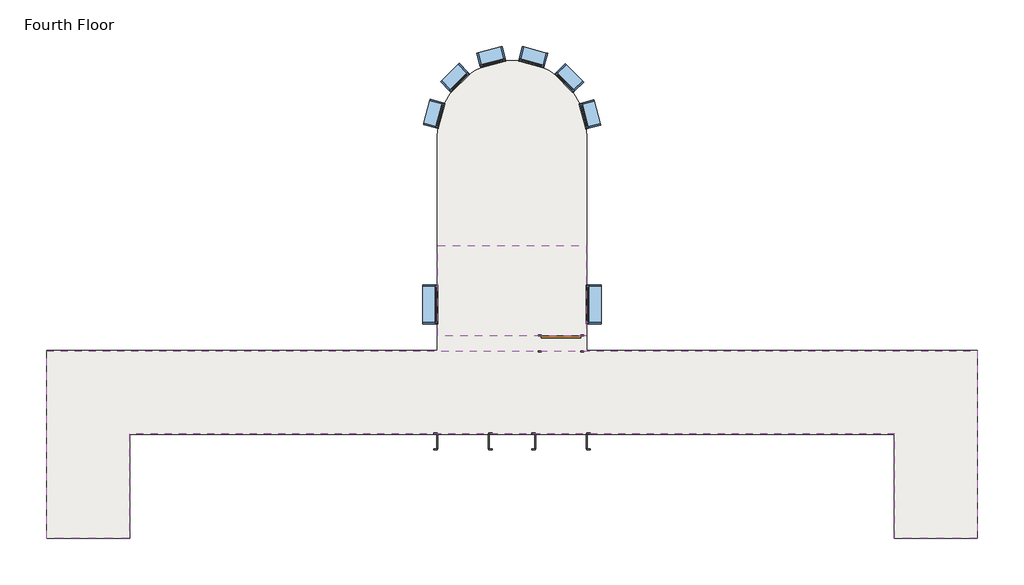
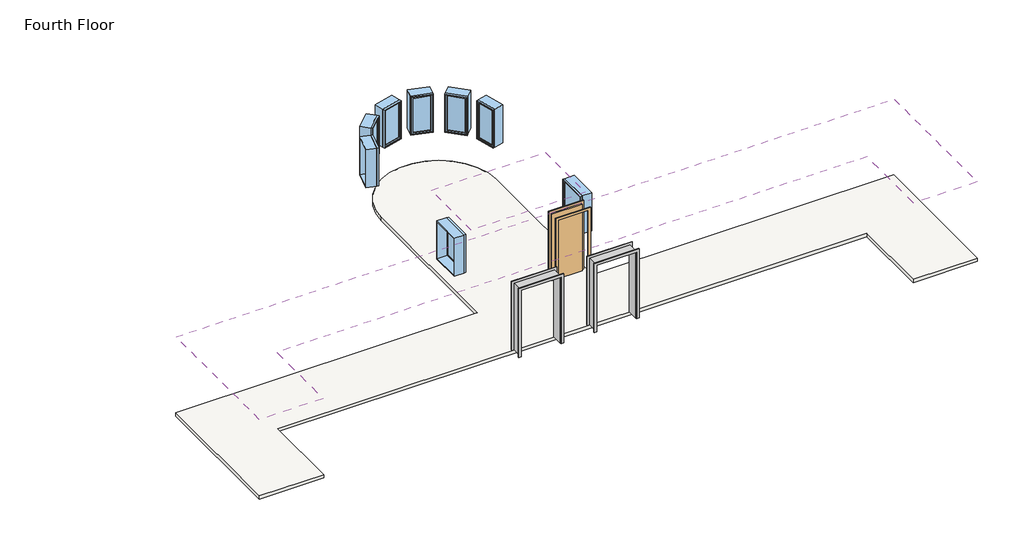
# One storey: 8 windows, 2 coverings, 2 proxies, 2 slabs, 1 door.
"""IFC4 building model written with IfcOpenShell, lengths in millimetres."""

import ifcopenshell
import ifcopenshell.guid

model = None  # the IFC model being written
_history = None  # IfcOwnerHistory: only IFC2X3 demands one
_inside = {}  # id of a spatial element -> (the spatial element, [elements in it])
_under = {}  # id of a project, library or spatial element -> (it, [spatial elements below it])
_declared = {}  # id of a project -> (the project, [libraries it declares])
_typed = {}  # id of a type object -> (the type object, [elements of that type])
_made_of = {}  # id of a material, layer set ... -> (it, [elements and type objects made of it])


def new_model(schema):
    """Start an empty IFC model of exactly this schema.

    Asked for "IFC4X3", IfcOpenShell would pick the latest addendum, in which some entities
    have other attributes; the version numbers below select the first issue.
    IFC2X3 requires an IfcOwnerHistory on every rooted entity: one is made here for all.
    """
    global model, _history
    if schema == "IFC4X3":
        model = ifcopenshell.file(schema_version=(4, 3, 0, 0))
    else:
        model = ifcopenshell.file(schema=schema)
    _inside.clear()
    _under.clear()
    _declared.clear()
    _typed.clear()
    _made_of.clear()
    _history = None
    if model.schema == "IFC2X3":
        org = make("IfcOrganization", Name="unknown")
        user = make(
            "IfcPersonAndOrganization",
            ThePerson=make("IfcPerson", FamilyName="unknown"),
            TheOrganization=org,
        )
        app = make(
            "IfcApplication",
            ApplicationDeveloper=org,
            Version="unknown",
            ApplicationFullName="unknown",
            ApplicationIdentifier="unknown",
        )
        _history = make(
            "IfcOwnerHistory",
            OwningUser=user,
            OwningApplication=app,
            ChangeAction="ADDED",
            CreationDate=0,
        )
    return model


def make(cls, **values):
    """One entity of the class cls with the attributes given. An attribute that is None is left unset."""
    return model.create_entity(
        cls, **{name: value for name, value in values.items() if value is not None}
    )


def rooted(cls, **values):
    """An entity with a GlobalId (a new one), such as an element, a storey or a relation."""
    return make(cls, GlobalId=ifcopenshell.guid.new(), OwnerHistory=_history, **values)


def si_unit(unit_type, name, prefix=None):
    """IfcSIUnit, for example si_unit("LENGTHUNIT", "METRE", prefix="MILLI")."""
    return make("IfcSIUnit", UnitType=unit_type, Prefix=prefix, Name=name)


def assignment(units):
    """IfcUnitAssignment: the units of a project."""
    return None if units is None else make("IfcUnitAssignment", Units=units)


def point(xyz):
    """IfcCartesianPoint."""
    return None if xyz is None else make("IfcCartesianPoint", Coordinates=xyz)


def direction(xyz):
    """IfcDirection."""
    return None if xyz is None else make("IfcDirection", DirectionRatios=xyz)


def frame(location, z_axis=None, x_axis=None):
    """IfcAxis2Placement3D, a coordinate frame: its origin and axes. An axis left out is left unset."""
    return make(
        "IfcAxis2Placement3D",
        Location=point(location),
        Axis=direction(z_axis),
        RefDirection=direction(x_axis),
    )


def frame_2d(location, x_axis=None):
    """IfcAxis2Placement2D, a coordinate frame in the plane: its origin and x axis."""
    return make(
        "IfcAxis2Placement2D", Location=point(location), RefDirection=direction(x_axis)
    )


def origin():
    """The frame at (0, 0, 0) with its axes left unset."""
    return frame((0.0, 0.0, 0.0))


def origin_with_axes():
    """The frame at (0, 0, 0) with the z axis (0, 0, 1) and the x axis (1, 0, 0) written out."""
    return frame((0.0, 0.0, 0.0), z_axis=(0.0, 0.0, 1.0), x_axis=(1.0, 0.0, 0.0))


def place(relative_to, where):
    """IfcLocalPlacement: puts the frame where relative to a parent placement (None: the world)."""
    return make(
        "IfcLocalPlacement", PlacementRelTo=relative_to, RelativePlacement=where
    )


def context(
    kind, dimensions, precision=None, world=None, true_north=None, identifier=None
):
    """IfcGeometricRepresentationContext, for example the 3D "Model" context."""
    return make(
        "IfcGeometricRepresentationContext",
        ContextIdentifier=identifier,
        ContextType=kind,
        CoordinateSpaceDimension=dimensions,
        Precision=precision,
        WorldCoordinateSystem=world,
        TrueNorth=true_north,
    )


def project(units=None, contexts=None):
    """IfcProject with its units and contexts."""
    return rooted(
        "IfcProject",
        Name="project",
        RepresentationContexts=contexts,
        UnitsInContext=assignment(units),
    )


def spatial(cls, under=None, at=None, **own):
    """A site, building, storey or space (cls), placed at a placement, below another one or the project."""
    s = rooted(cls, ObjectPlacement=at, **own)
    if under is not None:
        _under.setdefault(under.id(), (under, []))[1].append(s)
    return s


def polyline(points):
    """IfcPolyline through the points."""
    return make("IfcPolyline", Points=[point(p) for p in points])


def circle_curve(where, radius):
    """IfcCircle in the frame where."""
    return make("IfcCircle", Position=where, Radius=radius)


def trimmed(basis, trim1, trim2, sense, master):
    """IfcTrimmedCurve: the piece of a basis curve between two trims."""
    return make(
        "IfcTrimmedCurve",
        BasisCurve=basis,
        Trim1=trim1,
        Trim2=trim2,
        SenseAgreement=sense,
        MasterRepresentation=master,
    )


def segment(curve, same_sense, transition):
    """IfcCompositeCurveSegment."""
    return make(
        "IfcCompositeCurveSegment",
        Transition=transition,
        SameSense=same_sense,
        ParentCurve=curve,
    )


def composite_curve(segments, self_intersect=None):
    """IfcCompositeCurve: segments joined end to end."""
    return make("IfcCompositeCurve", Segments=segments, SelfIntersect=self_intersect)


def outline(outer, holes=None, kind="AREA"):
    """IfcArbitraryClosedProfileDef: a profile drawn as a closed curve; with holes, ...WithVoids."""
    if holes is None:
        return make("IfcArbitraryClosedProfileDef", ProfileType=kind, OuterCurve=outer)
    return make(
        "IfcArbitraryProfileDefWithVoids",
        ProfileType=kind,
        OuterCurve=outer,
        InnerCurves=holes,
    )


def extrude(swept, where, along, depth):
    """IfcExtrudedAreaSolid: the profile swept, set in the frame where, extruded along a direction by depth."""
    return make(
        "IfcExtrudedAreaSolid",
        SweptArea=swept,
        Position=where,
        ExtrudedDirection=direction(along),
        Depth=depth,
    )


def faces_of(points, faces, orient=None, outer=None):
    """IfcFace entities. A face is a list of loops; a loop is a list of indices into points, from 0.

    orient and outer hold one flag for each loop. By default every Orientation is true, the
    first loop of a face is its IfcFaceOuterBound and the others are IfcFaceBound.
    """
    made = []
    for i, loops in enumerate(faces):
        bounds = []
        for j, loop in enumerate(loops):
            is_outer = j == 0 if outer is None else outer[i][j]
            bounds.append(
                make(
                    "IfcFaceOuterBound" if is_outer else "IfcFaceBound",
                    Bound=make("IfcPolyLoop", Polygon=[points[k] for k in loop]),
                    Orientation=True if orient is None else orient[i][j],
                )
            )
        made.append(make("IfcFace", Bounds=bounds))
    return made


def faceted_brep(points, faces, orient=None, outer=None, voids=None):
    """IfcFacetedBrep: a solid bounded by flat faces; with voids (closed shells), ...WithVoids."""
    shared = [point(p) for p in points]
    hull = make("IfcClosedShell", CfsFaces=faces_of(shared, faces, orient, outer))
    if voids is None:
        return make("IfcFacetedBrep", Outer=hull)
    return make(
        "IfcFacetedBrepWithVoids",
        Outer=hull,
        Voids=[
            make(cls, CfsFaces=faces_of(shared, fs, o, b)) for cls, fs, o, b in voids
        ],
    )


def shape(context_of_items, identifier, shape_type, items):
    """IfcShapeRepresentation: the items that make up one representation, for example the "Body"."""
    return make(
        "IfcShapeRepresentation",
        ContextOfItems=context_of_items,
        RepresentationIdentifier=identifier,
        RepresentationType=shape_type,
        Items=items,
    )


def source(mapping_origin, context_of_items, identifier, shape_type, items):
    """IfcRepresentationMap: a shape defined once, which mapped items show again and again."""
    return make(
        "IfcRepresentationMap",
        MappingOrigin=mapping_origin,
        MappedRepresentation=shape(context_of_items, identifier, shape_type, items),
    )


def transform(
    local_origin,
    x_axis=None,
    y_axis=None,
    z_axis=None,
    scale=None,
    scale2=None,
    scale3=None,
    uniform=True,
):
    """IfcCartesianTransformationOperator3D, or its non-uniform kind. x_axis, y_axis, z_axis: its Axis1, 2, 3."""
    if uniform:
        return make(
            "IfcCartesianTransformationOperator3D",
            Axis1=direction(x_axis),
            Axis2=direction(y_axis),
            LocalOrigin=point(local_origin),
            Scale=scale,
            Axis3=direction(z_axis),
        )
    return make(
        "IfcCartesianTransformationOperator3DnonUniform",
        Axis1=direction(x_axis),
        Axis2=direction(y_axis),
        LocalOrigin=point(local_origin),
        Scale=scale,
        Axis3=direction(z_axis),
        Scale2=scale2,
        Scale3=scale3,
    )


def mapped(mapping_source, mapping_target):
    """IfcMappedItem: shows the shape of a source again, moved by a transform."""
    return make(
        "IfcMappedItem", MappingSource=mapping_source, MappingTarget=mapping_target
    )


def made_of(thing, what):
    """Note that an element or type object is made of a material, layer set ...; save() writes the relation."""
    if what is not None:
        _made_of.setdefault(what.id(), (what, []))[1].append(thing)
    return thing


def element(
    cls,
    number,
    at=None,
    inside=None,
    cuts=None,
    type_object=None,
    material=None,
    context=None,
    identifier="Body",
    shape_type=None,
    held_by="IfcProductDefinitionShape",
    body=None,
    shapes=None,
    **own,
):
    """One element of the class cls, such as IfcWall. Its Tag is "e" and its number.

    at: its placement. inside: the storey or other place that contains it. cuts: it is an
    opening in that element (IfcRelVoidsElement). A single representation is given by context,
    identifier, shape_type and body (its items); several are given by shapes. held_by: the class
    of the entity that holds the representations. save() writes the other relations.
    """
    e = rooted(cls, Tag="e%d" % number, ObjectPlacement=at, **own)
    if body is not None:
        shapes = [shape(context, identifier, shape_type, body)]
    if shapes is not None:
        e.Representation = make(held_by, Representations=shapes)
    if inside is not None:
        _inside.setdefault(inside.id(), (inside, []))[1].append(e)
    if cuts is not None:
        rooted(
            "IfcRelVoidsElement", RelatingBuildingElement=cuts, RelatedOpeningElement=e
        )
    if type_object is not None:
        _typed.setdefault(type_object.id(), (type_object, []))[1].append(e)
    return made_of(e, material)


def aggregate(whole, parts):
    """IfcRelAggregates: a whole, such as a stair, and the parts it consists of."""
    return rooted("IfcRelAggregates", RelatingObject=whole, RelatedObjects=parts)


def save(model, path):
    """Write the relations noted so far, then the file.

    IfcRelAggregates (storeys below a building ...), IfcRelContainedInSpatialStructure (elements
    in a storey), IfcRelDefinesByType, IfcRelAssociatesMaterial and IfcRelDeclares: one each for
    every whole, place, type object, material and project.
    """
    for whole, parts in _under.values():
        aggregate(whole, parts)
    for where, things in _inside.values():
        rooted(
            "IfcRelContainedInSpatialStructure",
            RelatedElements=things,
            RelatingStructure=where,
        )
    for kind, things in _typed.values():
        rooted("IfcRelDefinesByType", RelatedObjects=things, RelatingType=kind)
    for what, things in _made_of.values():
        rooted("IfcRelAssociatesMaterial", RelatedObjects=things, RelatingMaterial=what)
    for by, libraries in _declared.values():
        rooted("IfcRelDeclares", RelatingContext=by, RelatedDefinitions=libraries)
    model.write(path)


def proxy_c3589814(model_context):
    return source(origin(), model_context, "Body", "SolidModel", [
        extrude(outline(polyline([(0.0, -611.4386567), (2127.25, -611.4386567), (2127.25, 595.0613433), (0.0, 595.0613433), (0.0, 671.2613433), (2203.45, 671.2613433), (2203.45, -687.6386567), (0.0, -687.6386567), (0.0, -611.4386567)])), frame((0.0, -195.2625, 0.0), z_axis=(0.0, 1.0, 0.0), x_axis=(0.0, 0.0, 1.0)), (0.0, 0.0, 1.0), 19.05),
        extrude(outline(polyline([(0.0, 671.2613433), (2209.8, 671.2613433), (2209.8, -687.6386567), (0.0, -687.6386567), (0.0, -611.4386567), (2127.25, -611.4386567), (2127.25, 595.0613433), (0.0, 595.0613433), (0.0, 671.2613433)])), frame((0.0, 176.2125, 0.0), z_axis=(0.0, 1.0, 0.0), x_axis=(0.0, 0.0, 1.0)), (0.0, 0.0, 1.0), 19.05),
        faceted_brep([(582.3613433, 176.2125, 0.0), (601.4113433, 176.2125, 0.0), (601.4113433, -176.2125, 0.0), (582.3613433, -176.2125, 0.0), (582.3613433, 176.2125, 2114.55), (601.4113433, 176.2125, 2133.6), (601.4113433, -176.2125, 2133.6), (582.3613433, -176.2125, 2114.55), (-598.7386567, 176.2125, 2114.55), (-617.7886567, 176.2125, 2133.6), (-617.7886567, -176.2125, 2133.6), (-598.7386567, -176.2125, 2114.55), (-598.7386567, 176.2125, 0.0), (-598.7386567, -176.2125, 0.0), (-617.7886567, -176.2125, 0.0), (-617.7886567, 176.2125, 0.0)], [[[0, 1, 2, 3]], [[1, 0, 4, 5]], [[2, 1, 5, 6]], [[3, 2, 6, 7]], [[0, 3, 7, 4]], [[5, 4, 8, 9]], [[6, 5, 9, 10]], [[7, 6, 10, 11]], [[4, 7, 11, 8]], [[12, 13, 14, 15]], [[9, 8, 12, 15]], [[10, 9, 15, 14]], [[11, 10, 14, 13]], [[8, 11, 13, 12]]]),
    ])


def door_632be17d(model_context):
    return source(origin(), model_context, "Body", "SweptSolid", [
        extrude(outline(polyline([(2209.8, -533.4), (0.0, -533.4), (0.0, -457.2), (2133.6, -457.2), (2133.6, 457.2), (0.0, 457.2), (0.0, 533.4), (2209.8, 533.4), (2209.8, -533.4)])), frame((0.0, 176.2125, 0.0), z_axis=(0.0, 1.0, 0.0), x_axis=(0.0, 0.0, 1.0)), (0.0, 0.0, 1.0), 25.4),
        extrude(outline(polyline([(2209.8, 533.4), (2209.8, -533.4), (0.0, -533.4), (0.0, -457.2), (2133.6, -457.2), (2133.6, 457.2), (0.0, 457.2), (0.0, 533.4), (2209.8, 533.4)])), frame((0.0, -201.6125, 0.0), z_axis=(0.0, 1.0, 0.0), x_axis=(0.0, 0.0, 1.0)), (0.0, 0.0, 1.0), 25.4),
        extrude(outline(polyline([(457.2, 125.4125), (-457.2, 125.4125), (-457.2, 176.2125), (457.2, 176.2125), (457.2, 125.4125)])), origin_with_axes(), (0.0, 0.0, 1.0), 2133.6),
    ])


def window_60baf983(model_context):
    return source(origin(), model_context, "Body", "SweptSolid", [
        extrude(outline(polyline([(203.2, 128.5875), (-279.4, 128.5875), (-279.4, 141.2875), (203.2, 141.2875), (203.2, 128.5875)])), frame((0.0, 0.0, 977.9), z_axis=(0.0, 0.0, 1.0), x_axis=(1.0, 0.0, 0.0)), (0.0, 0.0, 1.0), 1092.2),
        extrude(outline(polyline([(2114.55, -323.85), (933.45, -323.85), (933.45, 247.65), (2114.55, 247.65), (2114.55, -323.85)]), holes=[polyline([(2070.1, -279.4), (2070.1, 203.2), (977.9, 203.2), (977.9, -279.4), (2070.1, -279.4)])]), frame((0.0, 112.7125, 0.0), z_axis=(0.0, 1.0, 0.0), x_axis=(0.0, 0.0, 1.0)), (0.0, 0.0, 1.0), 44.45),
        extrude(outline(polyline([(2133.6, -342.9), (914.4, -342.9), (914.4, 266.7), (2133.6, 266.7), (2133.6, -342.9)]), holes=[polyline([(2101.85, -311.15), (2101.85, 234.95), (946.15, 234.95), (946.15, -311.15), (2101.85, -311.15)])]), frame((0.0, -176.2125, 0.0), z_axis=(0.0, 1.0, 0.0), x_axis=(0.0, 0.0, 1.0)), (0.0, 0.0, 1.0), 288.925),
        extrude(outline(polyline([(2133.6, 266.7), (2133.6, -342.9), (914.4, -342.9), (914.4, 266.7), (2133.6, 266.7)]), holes=[polyline([(2114.55, 247.65), (933.45, 247.65), (933.45, -323.85), (2114.55, -323.85), (2114.55, 247.65)])]), frame((0.0, 112.7125, 0.0), z_axis=(0.0, 1.0, 0.0), x_axis=(0.0, 0.0, 1.0)), (0.0, 0.0, 1.0), 63.5),
    ])


def window_15c49d37(model_context):
    return source(origin(), model_context, "Body", "SweptSolid", [
        extrude(outline(polyline([(355.6, 128.5875), (-431.8, 128.5875), (-431.8, 141.2875), (355.6, 141.2875), (355.6, 128.5875)])), frame((0.0, 0.0, 977.9), z_axis=(0.0, 0.0, 1.0), x_axis=(1.0, 0.0, 0.0)), (0.0, 0.0, 1.0), 1092.2),
        extrude(outline(polyline([(2114.55, -476.25), (933.45, -476.25), (933.45, 400.05), (2114.55, 400.05), (2114.55, -476.25)]), holes=[polyline([(2070.1, -431.8), (2070.1, 355.6), (977.9, 355.6), (977.9, -431.8), (2070.1, -431.8)])]), frame((0.0, 112.7125, 0.0), z_axis=(0.0, 1.0, 0.0), x_axis=(0.0, 0.0, 1.0)), (0.0, 0.0, 1.0), 44.45),
        extrude(outline(polyline([(2133.6, -495.3), (914.4, -495.3), (914.4, 419.1), (2133.6, 419.1), (2133.6, -495.3)]), holes=[polyline([(2101.85, -463.55), (2101.85, 387.35), (946.15, 387.35), (946.15, -463.55), (2101.85, -463.55)])]), frame((0.0, -176.2125, 0.0), z_axis=(0.0, 1.0, 0.0), x_axis=(0.0, 0.0, 1.0)), (0.0, 0.0, 1.0), 288.925),
        extrude(outline(polyline([(2133.6, 419.1), (2133.6, -495.3), (914.4, -495.3), (914.4, 419.1), (2133.6, 419.1)]), holes=[polyline([(2114.55, 400.05), (933.45, 400.05), (933.45, -476.25), (2114.55, -476.25), (2114.55, 400.05)])]), frame((0.0, 112.7125, 0.0), z_axis=(0.0, 1.0, 0.0), x_axis=(0.0, 0.0, 1.0)), (0.0, 0.0, 1.0), 63.5),
    ])


model = new_model("IFC4")

# Units and contexts
model_context = context("Model", 3, world=origin())
ifc_project = project(units=[si_unit("LENGTHUNIT", "METRE", prefix="MILLI")], contexts=[model_context])

# Site, building, storey
site = spatial("IfcSite", under=ifc_project)
building = spatial("IfcBuilding", under=site)
storey = spatial("IfcBuildingStorey", under=building, Name="Fourth Floor", Elevation=9144.0)

# Proxies
placement = place(None, origin())
proxy_shape = proxy_c3589814(model_context)
element("IfcBuildingElementProxy", 1, Name="Opening-Cased : 48\" x 84\"", ObjectType="Opening-Cased : 48\" x 84\"", at=placement, inside=storey, context=model_context, shape_type="MappedRepresentation", body=[
    mapped(proxy_shape, transform((-7396.8036255, 2429.9758812, 9144.0), x_axis=(-1.0, 0.0, 0.0), y_axis=(0.0, -1.0, 0.0), z_axis=(0.0, 0.0, 1.0))),
])
element("IfcBuildingElementProxy", 2, Name="Opening-Cased : 48\" x 84\"", ObjectType="Opening-Cased : 48\" x 84\"", at=placement, inside=storey, context=model_context, shape_type="MappedRepresentation", body=[
    mapped(proxy_shape, transform((-5110.8036255, 2429.9758812, 9144.0), x_axis=(-1.0, 0.0, 0.0), y_axis=(0.0, -1.0, 0.0), z_axis=(0.0, 0.0, 1.0))),
])

# Coverings
element("IfcCovering", 3, ObjectType="GWB on Mtl. Stud", at=placement, inside=storey, context=model_context, shape_type="SweptSolid", body=[
    extrude(outline(polyline([(-4516.8274687, 4892.1883812), (-7974.4024687, 4892.1883812), (-7974.4024687, 7001.9758812), (-4516.8274687, 7001.9758812), (-4516.8274687, 4892.1883812)])), frame((0.0, 0.0, 11582.4), z_axis=(0.0, 0.0, 1.0), x_axis=(1.0, 0.0, 0.0)), (0.0, 0.0, 1.0), 107.95),
])
element("IfcCovering", 4, ObjectType="GWB on Mtl. Stud", at=placement, inside=storey, context=model_context, shape_type="SweptSolid", body=[
    extrude(outline(polyline([(2693.5975313, 167.7883812), (2693.5975313, 2606.1883812), (-15184.8274687, 2606.1883812), (-15184.8274687, 167.7883812), (-17118.4024687, 167.7883812), (-17118.4024687, 4539.7633812), (4627.1725313, 4539.7633812), (4627.1725313, 167.7883812), (2693.5975313, 167.7883812)])), frame((0.0, 0.0, 11582.4), z_axis=(0.0, 0.0, 1.0), x_axis=(1.0, 0.0, 0.0)), (0.0, 0.0, 1.0), 107.95),
])

# Door
door_shape = door_632be17d(model_context)
element("IfcDoor", 5, ObjectType="Single-Flush : 36\" x 84\"", at=placement, inside=storey, context=model_context, shape_type="MappedRepresentation", body=[
    mapped(door_shape, transform((-5102.6149687, 4715.9758812, 9144.0), x_axis=(1.0, 0.0, 0.0), y_axis=(0.0, 1.0, 0.0), z_axis=(0.0, 0.0, 1.0))),
])

# Slabs
element("IfcSlab", 6, ObjectType="LW Concrete on Metal Deck", at=placement, inside=storey, context=model_context, shape_type="SweptSolid", body=[
    extrude(outline(composite_curve([segment(polyline([(-4504.1274687, 9592.7758812), (-4504.1274687, 4552.4633812), (4627.1725313, 4552.4633812), (4627.1725313, 167.7883812), (2680.8975313, 167.7883812), (2680.8975313, 2593.4883812), (-15172.1274687, 2593.4883812), (-15172.1274687, 167.7883812), (-17118.4024687, 167.7883812), (-17118.4024687, 4552.4633812), (-7987.1024687, 4552.4633812), (-7987.1024687, 9592.7758812)]), True, "CONTINUOUS"), segment(trimmed(circle_curve(frame_2d((-6245.6149687, 9592.7758812)), 1741.4875), [point((-7987.1024687, 9592.7758812))], [point((-4504.1274687, 9592.7758812))], False, "CARTESIAN"), True, "CONTINUOUS")], self_intersect=False)), frame((0.0, 0.0, 9039.225), z_axis=(0.0, 0.0, 1.0), x_axis=(1.0, 0.0, 0.0)), (0.0, 0.0, 1.0), 104.775),
])
element("IfcSlab", 7, ObjectType="LW Concrete on Metal Deck", at=placement, inside=storey, context=model_context, shape_type="SweptSolid", body=[
    extrude(outline(composite_curve([segment(polyline([(-4504.1274687, 9592.7758812), (-4504.1274687, 4552.4633812), (4627.1725313, 4552.4633812), (4627.1725313, 167.7883812), (2680.8975313, 167.7883812), (2680.8975313, 2593.4883812), (-15172.1274687, 2593.4883812), (-15172.1274687, 167.7883812), (-17118.4024687, 167.7883812), (-17118.4024687, 4552.4633812), (-7987.1024687, 4552.4633812), (-7987.1024687, 9592.7758812)]), True, "CONTINUOUS"), segment(trimmed(circle_curve(frame_2d((-6245.6149687, 9592.7758812)), 1741.4875), [point((-7987.1024687, 9592.7758812))], [point((-4504.1274687, 9592.7758812))], False, "CARTESIAN"), True, "CONTINUOUS")], self_intersect=False), holes=[composite_curve([segment(polyline([(-7974.4024687, 7001.9758812), (-4516.8274687, 7001.9758812), (-4516.8274687, 9592.7758812)]), True, "CONTINUOUS"), segment(trimmed(circle_curve(frame_2d((-6245.6149687, 9592.7758812)), 1728.7875), [point((-4516.8274687, 9592.7758812))], [point((-7974.4024687, 9592.7758812))], True, "CARTESIAN"), True, "CONTINUOUS"), segment(polyline([(-7974.4024687, 9592.7758812), (-7974.4024687, 7001.9758812)]), True, "CONTINUOUS")], self_intersect=False)]), frame((0.0, 0.0, 9039.225), z_axis=(0.0, 0.0, 1.0), x_axis=(1.0, 0.0, 0.0)), (0.0, 0.0, 1.0), 104.775),
])

# Windows
window_shape = window_60baf983(model_context)
element("IfcWindow", 8, ObjectType="Fixed : 24\" x 48\"", at=placement, inside=storey, context=model_context, shape_type="MappedRepresentation", body=[
    mapped(window_shape, transform((-8072.5076754, 10048.7859441, 9144.0), x_axis=(-0.2617614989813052, -0.9651325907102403, 0.0), y_axis=(0.9651325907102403, -0.2617614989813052, 0.0), z_axis=(0.0, 0.0, 1.0))),
])
element("IfcWindow", 9, ObjectType="Fixed : 24\" x 48\"", at=placement, inside=storey, context=model_context, shape_type="MappedRepresentation", body=[
    mapped(window_shape, transform((-7599.7454312, 10901.1385333, 9144.0), x_axis=(-0.7092584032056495, -0.7049485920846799, 0.0), y_axis=(0.7049485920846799, -0.7092584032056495, 0.0), z_axis=(0.0, 0.0, 1.0))),
])
element("IfcWindow", 10, ObjectType="Fixed : 24\" x 48\"", at=placement, inside=storey, context=model_context, shape_type="MappedRepresentation", body=[
    mapped(window_shape, transform((-6764.1450232, 11402.9164066, 9144.0), x_axis=(-0.96671009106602, -0.25587418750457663, 0.0), y_axis=(0.25587418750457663, -0.96671009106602, 0.0), z_axis=(0.0, 0.0, 1.0))),
])
element("IfcWindow", 11, ObjectType="Fixed : 24\" x 48\"", at=placement, inside=storey, context=model_context, shape_type="MappedRepresentation", body=[
    mapped(window_shape, transform((-5789.6049059, 11419.6685878, 9144.0), x_axis=(-0.9651325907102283, 0.2617614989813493, 0.0), y_axis=(-0.2617614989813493, -0.9651325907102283, 0.0), z_axis=(0.0, 0.0, 1.0))),
])
element("IfcWindow", 12, ObjectType="Fixed : 24\" x 48\"", at=placement, inside=storey, context=model_context, shape_type="MappedRepresentation", body=[
    mapped(window_shape, transform((-4937.2523166, 10946.9063437, 9144.0), x_axis=(-0.7049485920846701, 0.7092584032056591, 0.0), y_axis=(-0.7092584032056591, -0.7049485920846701, 0.0), z_axis=(0.0, 0.0, 1.0))),
])
element("IfcWindow", 13, ObjectType="Fixed : 24\" x 48\"", at=placement, inside=storey, context=model_context, shape_type="MappedRepresentation", body=[
    mapped(window_shape, transform((-4435.4744434, 10111.3059357, 9144.0), x_axis=(-0.25587418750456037, 0.9667100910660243, 0.0), y_axis=(-0.9667100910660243, -0.25587418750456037, 0.0), z_axis=(0.0, 0.0, 1.0))),
])
window_2_shape = window_15c49d37(model_context)
element("IfcWindow", 14, ObjectType="Fixed : 36\" x 48\"", at=placement, inside=storey, context=model_context, shape_type="MappedRepresentation", body=[
    mapped(window_2_shape, transform((-8150.6149687, 5592.2758812, 9144.0), x_axis=(0.0, -1.0, 0.0), y_axis=(1.0, 0.0, 0.0), z_axis=(0.0, 0.0, 1.0))),
])
element("IfcWindow", 15, ObjectType="Fixed : 36\" x 48\"", at=placement, inside=storey, context=model_context, shape_type="MappedRepresentation", body=[
    mapped(window_2_shape, transform((-4340.6149687, 5668.4758812, 9144.0), x_axis=(0.0, 1.0, 0.0), y_axis=(-1.0, 0.0, 0.0), z_axis=(0.0, 0.0, 1.0))),
])

save(model, "model.ifc")
